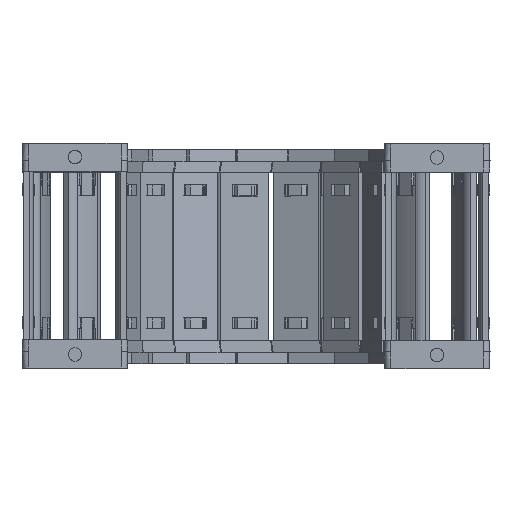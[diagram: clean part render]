
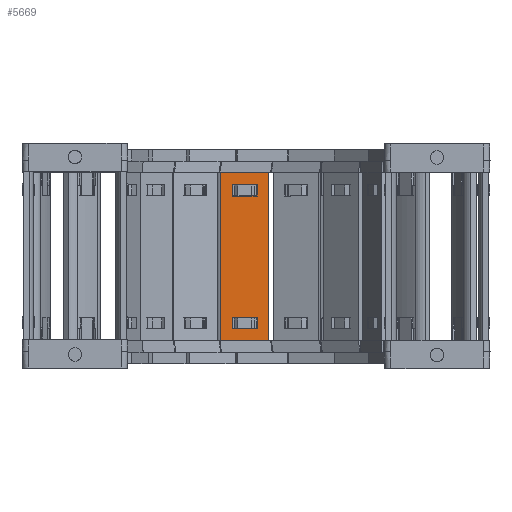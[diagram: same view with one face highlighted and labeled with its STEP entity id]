
A CAD part, top view. The second image highlights one B-rep face of the part: STEP entity #5669.
In plain terms, the highlighted planar face has unit normal (0.035, 0, 0.999) as drawn and (0, 1, 0) by its records, which use the part's own axes.
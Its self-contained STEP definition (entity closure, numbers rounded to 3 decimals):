
#5089=DIRECTION('',(0.,0.,1.));
#5090=VECTOR('',#5089,15.8);
#5091=CARTESIAN_POINT('',(40.24,1.5,-7.9));
#5092=LINE('',#5091,#5090);
#5093=DIRECTION('',(-1.,0.,0.));
#5094=VECTOR('',#5093,55.);
#5095=CARTESIAN_POINT('',(40.24,1.5,7.9));
#5096=LINE('',#5095,#5094);
#5097=DIRECTION('',(0.,0.,-1.));
#5098=VECTOR('',#5097,15.8);
#5099=CARTESIAN_POINT('',(-14.76,1.5,7.9));
#5100=LINE('',#5099,#5098);
#5101=DIRECTION('',(1.,0.,0.));
#5102=VECTOR('',#5101,3.648);
#5103=CARTESIAN_POINT('',(32.622,1.5,4.075));
#5104=LINE('',#5103,#5102);
#5105=DIRECTION('',(0.,0.,-1.));
#5106=VECTOR('',#5105,8.15);
#5107=CARTESIAN_POINT('',(36.27,1.5,4.075));
#5108=LINE('',#5107,#5106);
#5109=DIRECTION('',(-1.,0.,0.));
#5110=VECTOR('',#5109,3.648);
#5111=CARTESIAN_POINT('',(36.27,1.5,-4.075));
#5112=LINE('',#5111,#5110);
#5113=DIRECTION('',(0.,0.,-1.));
#5114=VECTOR('',#5113,8.15);
#5115=CARTESIAN_POINT('',(-7.142,1.5,4.075));
#5116=LINE('',#5115,#5114);
#5117=DIRECTION('',(-1.,0.,0.));
#5118=VECTOR('',#5117,3.648);
#5119=CARTESIAN_POINT('',(-7.142,1.5,-4.075));
#5120=LINE('',#5119,#5118);
#5121=DIRECTION('',(0.,0.,1.));
#5122=VECTOR('',#5121,8.15);
#5123=CARTESIAN_POINT('',(-10.79,1.5,-4.075));
#5124=LINE('',#5123,#5122);
#5125=DIRECTION('',(1.,0.,0.));
#5126=VECTOR('',#5125,3.648);
#5127=CARTESIAN_POINT('',(-10.79,1.5,4.075));
#5128=LINE('',#5127,#5126);
#5133=DIRECTION('',(-1.,0.,0.));
#5134=VECTOR('',#5133,55.);
#5135=CARTESIAN_POINT('',(40.24,1.5,-7.9));
#5136=LINE('',#5135,#5134);
#5254=DIRECTION('',(0.,0.,-1.));
#5255=VECTOR('',#5254,8.15);
#5256=CARTESIAN_POINT('',(32.622,1.5,4.075));
#5257=LINE('',#5256,#5255);
#5439=CARTESIAN_POINT('',(36.27,1.5,4.075));
#5440=VERTEX_POINT('',#5439);
#5441=CARTESIAN_POINT('',(32.622,1.5,4.075));
#5442=VERTEX_POINT('',#5441);
#5483=CARTESIAN_POINT('',(32.622,1.5,-4.075));
#5484=VERTEX_POINT('',#5483);
#5485=CARTESIAN_POINT('',(36.27,1.5,-4.075));
#5486=VERTEX_POINT('',#5485);
#5487=CARTESIAN_POINT('',(40.24,1.5,7.9));
#5489=VERTEX_POINT('',#5487);
#5491=CARTESIAN_POINT('',(40.24,1.5,-7.9));
#5492=VERTEX_POINT('',#5491);
#5515=CARTESIAN_POINT('',(-7.142,1.5,4.075));
#5516=CARTESIAN_POINT('',(-7.142,1.5,-4.075));
#5517=VERTEX_POINT('',#5515);
#5518=VERTEX_POINT('',#5516);
#5519=CARTESIAN_POINT('',(-10.79,1.5,-4.075));
#5520=VERTEX_POINT('',#5519);
#5521=CARTESIAN_POINT('',(-10.79,1.5,4.075));
#5522=VERTEX_POINT('',#5521);
#5523=CARTESIAN_POINT('',(-14.76,1.5,7.9));
#5524=VERTEX_POINT('',#5523);
#5527=CARTESIAN_POINT('',(-14.76,1.5,-7.9));
#5528=VERTEX_POINT('',#5527);
#5638=CARTESIAN_POINT('',(71.98,1.5,10.061));
#5639=DIRECTION('',(0.,-1.,0.));
#5640=DIRECTION('',(0.,0.,-1.));
#5641=AXIS2_PLACEMENT_3D('',#5638,#5639,#5640);
#5642=PLANE('',#5641);
#5643=ORIENTED_EDGE('',*,*,#5577,.T.);
#5644=ORIENTED_EDGE('',*,*,#5603,.T.);
#5645=ORIENTED_EDGE('',*,*,#5616,.T.);
#5647=ORIENTED_EDGE('',*,*,#5646,.F.);
#5648=EDGE_LOOP('',(#5643,#5644,#5645,#5647));
#5649=FACE_OUTER_BOUND('',#5648,.F.);
#5651=ORIENTED_EDGE('',*,*,#5650,.F.);
#5652=ORIENTED_EDGE('',*,*,#5540,.T.);
#5654=ORIENTED_EDGE('',*,*,#5653,.T.);
#5656=ORIENTED_EDGE('',*,*,#5655,.T.);
#5657=EDGE_LOOP('',(#5651,#5652,#5654,#5656));
#5658=FACE_BOUND('',#5657,.F.);
#5660=ORIENTED_EDGE('',*,*,#5659,.T.);
#5662=ORIENTED_EDGE('',*,*,#5661,.T.);
#5664=ORIENTED_EDGE('',*,*,#5663,.T.);
#5666=ORIENTED_EDGE('',*,*,#5665,.T.);
#5667=EDGE_LOOP('',(#5660,#5662,#5664,#5666));
#5668=FACE_BOUND('',#5667,.F.);
#5669=ADVANCED_FACE('',(#5649,#5658,#5668),#5642,.F.);
#5540=EDGE_CURVE('',#5442,#5440,#5104,.T.);
#5577=EDGE_CURVE('',#5492,#5489,#5092,.T.);
#5603=EDGE_CURVE('',#5489,#5524,#5096,.T.);
#5616=EDGE_CURVE('',#5524,#5528,#5100,.T.);
#5646=EDGE_CURVE('',#5492,#5528,#5136,.T.);
#5650=EDGE_CURVE('',#5442,#5484,#5257,.T.);
#5653=EDGE_CURVE('',#5440,#5486,#5108,.T.);
#5655=EDGE_CURVE('',#5486,#5484,#5112,.T.);
#5659=EDGE_CURVE('',#5517,#5518,#5116,.T.);
#5661=EDGE_CURVE('',#5518,#5520,#5120,.T.);
#5663=EDGE_CURVE('',#5520,#5522,#5124,.T.);
#5665=EDGE_CURVE('',#5522,#5517,#5128,.T.);
